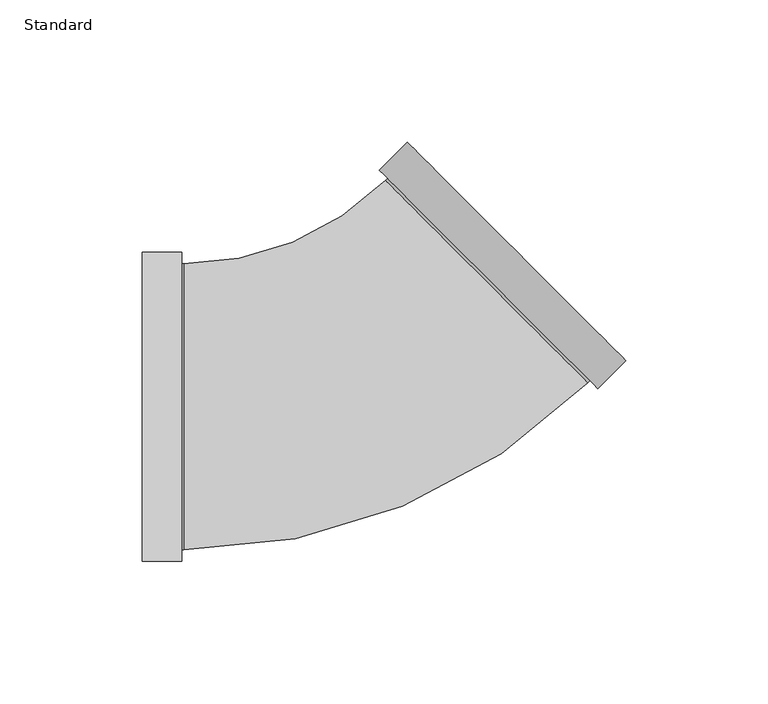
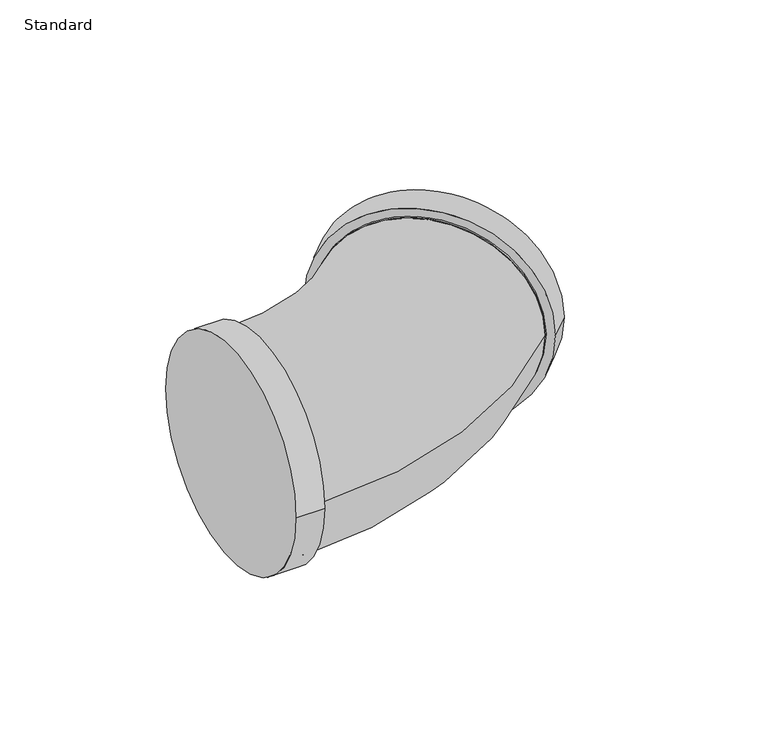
"""IFC4 building model written with IfcOpenShell, lengths in millimetres: pipe fitting geometry, Victaulic Grooved Elbow : Standard."""

from ifc_helpers import new_model, si_unit, point, frame, origin, place, context, project, spatial, circle_curve, ellipse_curve, trimmed, source, transform, mapped, element, save
from ifc_brep_helpers import plane_surface, cylinder_surface, revolved_surface, advanced_brep


def standard_d191458b(model_context):
    return source(origin(), model_context, "Body", "AdvancedBrep", [
        advanced_brep(
        [(83.2967148, 6.363497, 0.0), (6.363497, 83.2967148, 0.0), (9.2484927, 80.4117191, 0.0), (80.4117191, 9.2484927, 0.0), (93.125499, 16.1922813, 0.0), (16.1922813, 93.125499, 0.0), (79.7073303, 8.5441038, 0.0), (8.5441038, 79.7073303, 0.0)],
        [
            (0, 1, circle_curve(frame((44.8301059, 44.8301059, 0.0), z_axis=(-0.7071067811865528, -0.7071067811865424, 0.0), x_axis=(-0.7071067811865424, 0.7071067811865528, 0.0)), 54.4)),
            (1, 0, circle_curve(frame((44.8301059, 44.8301059, 0.0), z_axis=(-0.7071067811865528, -0.7071067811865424, 0.0), x_axis=(-0.7071067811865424, 0.7071067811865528, 0.0)), 54.4)),
            (2, 3, circle_curve(frame((44.8301059, 44.8301059, 0.0), z_axis=(0.7071067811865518, 0.7071067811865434, 0.0), x_axis=(-0.7071067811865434, 0.7071067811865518, 0.0)), 50.32)),
            (3, 2, circle_curve(frame((44.8301059, 44.8301059, 0.0), z_axis=(0.7071067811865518, 0.7071067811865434, 0.0), x_axis=(-0.7071067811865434, 0.7071067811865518, 0.0)), 50.32)),
            (4, 5, circle_curve(frame((54.6588901, 54.6588901, 0.0), z_axis=(0.7071067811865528, 0.7071067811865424, 0.0), x_axis=(-0.7071067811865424, 0.7071067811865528, 0.0)), 54.4)),
            (5, 4, circle_curve(frame((54.6588901, 54.6588901, 0.0), z_axis=(0.7071067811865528, 0.7071067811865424, 0.0), x_axis=(-0.7071067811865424, 0.7071067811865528, 0.0)), 54.4)),
            (0, 4),
            (5, 1),
            (6, 7, circle_curve(frame((44.125717, 44.125717, 0.0), z_axis=(-0.7071067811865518, -0.7071067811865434, 0.0), x_axis=(-0.7071067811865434, 0.7071067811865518, 0.0)), 50.32)),
            (7, 6, circle_curve(frame((44.125717, 44.125717, 0.0), z_axis=(-0.7071067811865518, -0.7071067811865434, 0.0), x_axis=(-0.7071067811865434, 0.7071067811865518, 0.0)), 50.32)),
            (6, 3),
            (2, 7),
        ],
        [
            plane_surface(frame((44.8301059, 44.8301059, 0.0), z_axis=(-0.7071067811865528, -0.7071067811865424, 0.0), x_axis=(0.0, 0.0, 1.0))),
            plane_surface(frame((54.6588901, 54.6588901, 0.0), z_axis=(0.7071067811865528, 0.7071067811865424, 0.0), x_axis=(0.0, 0.0, 1.0))),
            cylinder_surface(frame((44.8301059, 44.8301059, 0.0), z_axis=(-0.7071067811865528, -0.7071067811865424, 0.0), x_axis=(-0.7071067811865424, 0.7071067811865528, 0.0)), 54.4),
            plane_surface(frame((44.125717, 44.125717, 0.0), z_axis=(-0.7071067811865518, -0.7071067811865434, 0.0), x_axis=(0.0, 0.0, 1.0))),
            cylinder_surface(frame((44.125717, 44.125717, 0.0), z_axis=(-0.7071067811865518, -0.7071067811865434, 0.0), x_axis=(-0.7071067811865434, 0.7071067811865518, 0.0)), 50.32),
        ],
        [
            (0, [[1, 2], [3, 4]]),
            (1, [[5, 6]]),
            (2, [[-1, 7, -6, 8]]),
            (2, [[-2, -8, -5, -7]]),
            (3, [[9, 10]]),
            (4, [[-9, 11, -3, 12]]),
            (4, [[-10, -12, -4, -11]]),
        ],
    ),
        advanced_brep(
        [(-63.1969375, 54.4, 0.0), (-63.1969375, -54.4, 0.0), (-63.1969375, -50.32, 0.0), (-63.1969375, 50.32, 0.0), (-77.0969375, 54.4, 0.0), (-77.0969375, -54.4, 0.0), (-62.4031875, 50.32, 0.0), (-62.4031875, -50.32, 0.0)],
        [
            (0, 1, circle_curve(frame((-63.1969375, 0.0, 0.0), z_axis=(1.0, 0.0, 0.0), x_axis=(0.0, -1.0, 0.0)), 54.4)),
            (1, 0, circle_curve(frame((-63.1969375, 0.0, 0.0), z_axis=(1.0, 0.0, 0.0), x_axis=(0.0, -1.0, 0.0)), 54.4)),
            (2, 3, circle_curve(frame((-63.1969375, 0.0, 0.0), z_axis=(-1.0, 0.0, 0.0), x_axis=(0.0, -1.0, 0.0)), 50.32)),
            (3, 2, circle_curve(frame((-63.1969375, 0.0, 0.0), z_axis=(-1.0, 0.0, 0.0), x_axis=(0.0, -1.0, 0.0)), 50.32)),
            (4, 5, circle_curve(frame((-77.0969375, 0.0, 0.0), z_axis=(-1.0, 0.0, 0.0), x_axis=(0.0, -1.0, 0.0)), 54.4)),
            (5, 4, circle_curve(frame((-77.0969375, 0.0, 0.0), z_axis=(-1.0, 0.0, 0.0), x_axis=(0.0, -1.0, 0.0)), 54.4)),
            (0, 4),
            (5, 1),
            (6, 7, circle_curve(frame((-62.4031875, 0.0, 0.0), z_axis=(1.0, 0.0, 0.0), x_axis=(0.0, -1.0, 0.0)), 50.32)),
            (7, 6, circle_curve(frame((-62.4031875, 0.0, 0.0), z_axis=(1.0, 0.0, 0.0), x_axis=(0.0, -1.0, 0.0)), 50.32)),
            (6, 3),
            (2, 7),
        ],
        [
            plane_surface(frame((-63.1969375, 0.0, 0.0), z_axis=(1.0, 0.0, 0.0), x_axis=(0.0, 0.0, 1.0))),
            plane_surface(frame((-77.0969375, 0.0, 0.0), z_axis=(-1.0, 0.0, 0.0), x_axis=(0.0, 0.0, 1.0))),
            cylinder_surface(frame((-63.1969375, 0.0, 0.0), z_axis=(1.0, 0.0, 0.0), x_axis=(0.0, -1.0, 0.0)), 54.4),
            plane_surface(frame((-62.4031875, 0.0, 0.0), z_axis=(1.0, 0.0, 0.0), x_axis=(0.0, 0.0, 1.0))),
            cylinder_surface(frame((-62.4031875, 0.0, 0.0), z_axis=(1.0, 0.0, 0.0), x_axis=(0.0, -1.0, 0.0)), 50.32),
        ],
        [
            (0, [[1, 2], [3, 4]]),
            (1, [[5, 6]]),
            (2, [[-1, 7, -6, 8]]),
            (2, [[-2, -8, -5, -7]]),
            (3, [[9, 10]]),
            (4, [[-9, 11, -3, 12]]),
            (4, [[-10, -12, -4, -11]]),
        ],
    ),
        advanced_brep(
        [(16.1922813, 93.125499, 0.0), (93.125499, 16.1922813, 0.0), (6.363497, 83.2967148, 0.0), (83.2967148, 6.363497, 0.0), (9.2484927, 80.4117191, 0.0), (80.4117191, 9.2484927, 0.0), (79.7073303, 8.5441038, 0.0), (8.5441038, 79.7073303, 0.0)],
        [
            (0, 1, circle_curve(frame((54.6588901, 54.6588901, 0.0), z_axis=(0.7071067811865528, 0.7071067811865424, 0.0), x_axis=(0.7071067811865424, -0.7071067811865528, 0.0)), 54.4)),
            (1, 0, circle_curve(frame((54.6588901, 54.6588901, 0.0), z_axis=(0.7071067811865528, 0.7071067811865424, 0.0), x_axis=(0.7071067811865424, -0.7071067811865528, 0.0)), 54.4)),
            (2, 3, circle_curve(frame((44.8301059, 44.8301059, 0.0), z_axis=(-0.7071067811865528, -0.7071067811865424, 0.0), x_axis=(0.7071067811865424, -0.7071067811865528, 0.0)), 54.4)),
            (3, 2, circle_curve(frame((44.8301059, 44.8301059, 0.0), z_axis=(-0.7071067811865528, -0.7071067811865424, 0.0), x_axis=(0.7071067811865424, -0.7071067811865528, 0.0)), 54.4)),
            (4, 5, circle_curve(frame((44.8301059, 44.8301059, 0.0), z_axis=(0.7071067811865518, 0.7071067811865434, 0.0), x_axis=(-0.7071067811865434, 0.7071067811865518, 0.0)), 50.32)),
            (5, 4, circle_curve(frame((44.8301059, 44.8301059, 0.0), z_axis=(0.7071067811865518, 0.7071067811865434, 0.0), x_axis=(-0.7071067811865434, 0.7071067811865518, 0.0)), 50.32)),
            (0, 2),
            (3, 1),
            (6, 7, circle_curve(frame((44.125717, 44.125717, 0.0), z_axis=(-0.7071067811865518, -0.7071067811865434, 0.0), x_axis=(-0.7071067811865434, 0.7071067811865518, 0.0)), 50.32)),
            (7, 6, circle_curve(frame((44.125717, 44.125717, 0.0), z_axis=(-0.7071067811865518, -0.7071067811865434, 0.0), x_axis=(-0.7071067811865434, 0.7071067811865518, 0.0)), 50.32)),
            (6, 5),
            (4, 7),
        ],
        [
            plane_surface(frame((54.6588901, 54.6588901, 0.0), z_axis=(0.7071067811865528, 0.7071067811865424, 0.0), x_axis=(0.0, 0.0, 1.0))),
            plane_surface(frame((44.8301059, 44.8301059, 0.0), z_axis=(-0.7071067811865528, -0.7071067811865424, 0.0), x_axis=(0.0, 0.0, 1.0))),
            cylinder_surface(frame((54.6588901, 54.6588901, 0.0), z_axis=(0.7071067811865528, 0.7071067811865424, 0.0), x_axis=(0.7071067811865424, -0.7071067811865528, 0.0)), 54.4),
            plane_surface(frame((44.125717, 44.125717, 0.0), z_axis=(-0.7071067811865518, -0.7071067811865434, 0.0), x_axis=(0.0, 0.0, 1.0))),
            cylinder_surface(frame((44.125717, 44.125717, 0.0), z_axis=(-0.7071067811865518, -0.7071067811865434, 0.0), x_axis=(-0.7071067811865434, 0.7071067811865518, 0.0)), 50.32),
        ],
        [
            (0, [[1, 2]]),
            (1, [[3, 4], [5, 6]]),
            (2, [[-1, 7, -4, 8]]),
            (2, [[-2, -8, -3, -7]]),
            (3, [[9, 10]]),
            (4, [[-9, 11, -5, 12]]),
            (4, [[-10, -12, -6, -11]]),
        ],
    ),
        advanced_brep(
        [(-63.1969375, -54.4, 0.0), (-63.1969375, 54.4, 0.0), (-63.1969375, -50.32, 0.0), (-63.1969375, 50.32, 0.0), (-77.0969375, -54.4, 0.0), (-77.0969375, 54.4, 0.0), (-62.4031875, 50.32, 0.0), (-62.4031875, -50.32, 0.0)],
        [
            (0, 1, circle_curve(frame((-63.1969375, 0.0, 0.0), z_axis=(1.0, 0.0, 0.0), x_axis=(0.0, 1.0, 0.0)), 54.4)),
            (1, 0, circle_curve(frame((-63.1969375, 0.0, 0.0), z_axis=(1.0, 0.0, 0.0), x_axis=(0.0, 1.0, 0.0)), 54.4)),
            (2, 3, circle_curve(frame((-63.1969375, 0.0, 0.0), z_axis=(-1.0, 0.0, 0.0), x_axis=(0.0, -1.0, 0.0)), 50.32)),
            (3, 2, circle_curve(frame((-63.1969375, 0.0, 0.0), z_axis=(-1.0, 0.0, 0.0), x_axis=(0.0, -1.0, 0.0)), 50.32)),
            (4, 5, circle_curve(frame((-77.0969375, 0.0, 0.0), z_axis=(-1.0, 0.0, 0.0), x_axis=(0.0, 1.0, 0.0)), 54.4)),
            (5, 4, circle_curve(frame((-77.0969375, 0.0, 0.0), z_axis=(-1.0, 0.0, 0.0), x_axis=(0.0, 1.0, 0.0)), 54.4)),
            (0, 4),
            (5, 1),
            (6, 7, circle_curve(frame((-62.4031875, 0.0, 0.0), z_axis=(1.0, 0.0, 0.0), x_axis=(0.0, -1.0, 0.0)), 50.32)),
            (7, 6, circle_curve(frame((-62.4031875, 0.0, 0.0), z_axis=(1.0, 0.0, 0.0), x_axis=(0.0, -1.0, 0.0)), 50.32)),
            (6, 3),
            (2, 7),
        ],
        [
            plane_surface(frame((-63.1969375, 54.4, 0.0), z_axis=(1.0, 0.0, 0.0), x_axis=(0.0, 0.0, 1.0))),
            plane_surface(frame((-77.0969375, 54.4, 0.0), z_axis=(-1.0, 0.0, 0.0), x_axis=(0.0, 0.0, -1.0))),
            cylinder_surface(frame((-77.0969375, 0.0, 0.0), z_axis=(1.0, 0.0, 0.0), x_axis=(0.0, 1.0, 0.0)), 54.4),
            plane_surface(frame((-62.4031875, 0.0, 0.0), z_axis=(1.0, 0.0, 0.0), x_axis=(0.0, 0.0, 1.0))),
            cylinder_surface(frame((-62.4031875, 0.0, 0.0), z_axis=(1.0, 0.0, 0.0), x_axis=(0.0, -1.0, 0.0)), 50.32),
        ],
        [
            (0, [[1, 2], [3, 4]]),
            (1, [[5, 6]]),
            (2, [[-1, 7, -6, 8]]),
            (2, [[-2, -8, -5, -7]]),
            (3, [[9, 10]]),
            (4, [[-9, 11, -3, 12]]),
            (4, [[-10, -12, -4, -11]]),
        ],
    ),
        advanced_brep(
        [(79.7073303, 8.5441038, 0.0), (8.5441038, 79.7073303, 0.0), (-62.4031875, -50.32, 0.0), (-62.4031875, 50.32, 0.0)],
        [
            (0, 1, circle_curve(frame((44.125717, 44.125717, 0.0), z_axis=(0.7071067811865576, 0.7071067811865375, 0.0), x_axis=(-0.7071067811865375, 0.7071067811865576, 0.0)), 50.32)),
            (1, 0, circle_curve(frame((44.125717, 44.125717, 0.0), z_axis=(0.7071067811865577, 0.7071067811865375, 0.0), x_axis=(-0.7071067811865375, 0.7071067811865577, 0.0)), 50.32)),
            (2, 3, circle_curve(frame((-62.4031875, 0.0, 0.0), z_axis=(-1.0, 0.0, 0.0), x_axis=(0.0, 1.0, 0.0)), 50.32)),
            (3, 2, circle_curve(frame((-62.4031875, 0.0, 0.0), z_axis=(-1.0, 0.0, 0.0), x_axis=(0.0, 1.0, 0.0)), 50.32)),
            (3, 1, circle_curve(frame((-62.4031875, 150.6546216, 0.0), z_axis=(0.0, 0.0, 1.0), x_axis=(1.0, 0.0, 0.0)), 100.3346216)),
            (0, 2, circle_curve(frame((-62.4031875, 150.6546216, 0.0), z_axis=(0.0, 0.0, -1.0), x_axis=(1.0, 0.0, 0.0)), 200.9746216)),
        ],
        [
            plane_surface(frame((44.125717, 44.125717, 0.0), z_axis=(0.7071067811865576, 0.7071067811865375, 0.0), x_axis=(0.0, 0.0, -1.0))),
            plane_surface(frame((-62.4031875, 0.0, 0.0), z_axis=(-1.0, 0.0, 0.0), x_axis=(0.0, 0.0, -1.0))),
            revolved_surface(trimmed(ellipse_curve(frame((88.2514341, 150.6546216, 0.0), z_axis=(0.0, -1.0, 0.0), x_axis=(-1.0, 0.0, 0.0)), 50.32, 50.32), [point((37.9314341, 150.6546216, 0.0))], [point((138.5714341, 150.6546216, 0.0))], True, "CARTESIAN"), (-62.4031875, 150.6546216, 0.0), (0.0, 0.0, 1.0)),
            revolved_surface(trimmed(ellipse_curve(frame((88.2514341, 150.6546216, 0.0), z_axis=(0.0, -1.0, 0.0), x_axis=(-1.0, 0.0, 0.0)), 50.32, 50.32), [point((138.5714341, 150.6546216, 0.0))], [point((37.9314341, 150.6546216, 0.0))], True, "CARTESIAN"), (-62.4031875, 150.6546216, 0.0), (0.0, 0.0, 1.0)),
        ],
        [
            (0, [[1, 2]]),
            (1, [[3, 4]]),
            (2, [[-4, 5, -1, 6]]),
            (3, [[-3, -6, -2, -5]]),
        ],
    ),
        advanced_brep(
        [(79.7073303, 8.5441038, 0.0), (8.5441038, 79.7073303, 0.0), (-62.4031875, -50.32, 0.0), (-62.4031875, 50.32, 0.0)],
        [
            (0, 1, circle_curve(frame((44.125717, 44.125717, 0.0), z_axis=(0.7071067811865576, 0.7071067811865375, 0.0), x_axis=(-0.7071067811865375, 0.7071067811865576, 0.0)), 50.32)),
            (1, 0, circle_curve(frame((44.125717, 44.125717, 0.0), z_axis=(0.7071067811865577, 0.7071067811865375, 0.0), x_axis=(-0.7071067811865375, 0.7071067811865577, 0.0)), 50.32)),
            (2, 3, circle_curve(frame((-62.4031875, 0.0, 0.0), z_axis=(-1.0, 0.0, 0.0), x_axis=(0.0, 1.0, 0.0)), 50.32)),
            (3, 2, circle_curve(frame((-62.4031875, 0.0, 0.0), z_axis=(-1.0, 0.0, 0.0), x_axis=(0.0, 1.0, 0.0)), 50.32)),
            (3, 1, circle_curve(frame((-62.4031875, 150.6546216, 0.0), z_axis=(0.0, 0.0, 1.0), x_axis=(1.0, 0.0, 0.0)), 100.3346216)),
            (0, 2, circle_curve(frame((-62.4031875, 150.6546216, 0.0), z_axis=(0.0, 0.0, -1.0), x_axis=(1.0, 0.0, 0.0)), 200.9746216)),
        ],
        [
            plane_surface(frame((44.125717, 44.125717, 0.0), z_axis=(0.7071067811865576, 0.7071067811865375, 0.0), x_axis=(0.0, 0.0, -1.0))),
            plane_surface(frame((-62.4031875, 0.0, 0.0), z_axis=(-1.0, 0.0, 0.0), x_axis=(0.0, 0.0, -1.0))),
            revolved_surface(trimmed(ellipse_curve(frame((88.2514341, 150.6546216, 0.0), z_axis=(0.0, -1.0, 0.0), x_axis=(-1.0, 0.0, 0.0)), 50.32, 50.32), [point((37.9314341, 150.6546216, 0.0))], [point((138.5714341, 150.6546216, 0.0))], True, "CARTESIAN"), (-62.4031875, 150.6546216, 0.0), (0.0, 0.0, 1.0)),
            revolved_surface(trimmed(ellipse_curve(frame((88.2514341, 150.6546216, 0.0), z_axis=(0.0, -1.0, 0.0), x_axis=(-1.0, 0.0, 0.0)), 50.32, 50.32), [point((138.5714341, 150.6546216, 0.0))], [point((37.9314341, 150.6546216, 0.0))], True, "CARTESIAN"), (-62.4031875, 150.6546216, 0.0), (0.0, 0.0, 1.0)),
        ],
        [
            (0, [[1, 2]]),
            (1, [[3, 4]]),
            (2, [[-4, 5, -1, 6]]),
            (3, [[-3, -6, -2, -5]]),
        ],
    ),
    ])


if __name__ == "__main__":
    model = new_model("IFC4")
    model_context = context("Model", 3, world=origin())
    ifc_project = project(units=[si_unit("LENGTHUNIT", "METRE", prefix="MILLI")], contexts=[model_context])
    site = spatial("IfcSite", under=ifc_project)
    building = spatial("IfcBuilding", under=site)
    placement = place(None, origin())
    standard_shape = standard_d191458b(model_context)
    element("IfcPipeFitting", 1, ObjectType="Victaulic Grooved Elbow : Standard", at=placement, inside=building, context=model_context, shape_type="MappedRepresentation", body=[
        mapped(standard_shape, transform((0.0, 0.0, 0.0), x_axis=(1.0, 0.0, 0.0), y_axis=(0.0, 1.0, 0.0), z_axis=(0.0, 0.0, 1.0))),
    ])
    save(model, "model.ifc")
